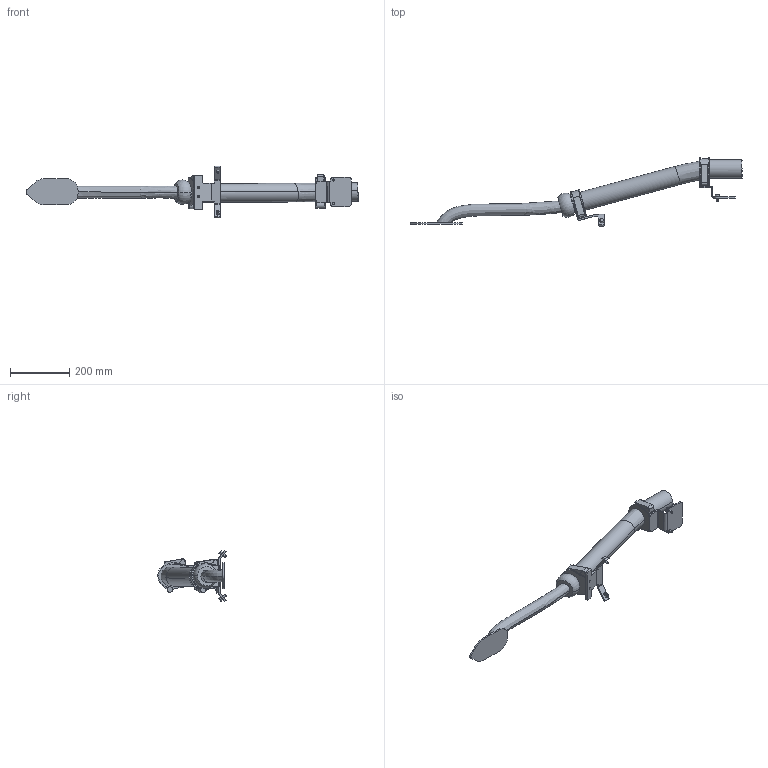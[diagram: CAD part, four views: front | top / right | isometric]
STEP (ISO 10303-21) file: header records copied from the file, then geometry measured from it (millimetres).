
FILE_DESCRIPTION (( 'STEP AP214' ), '1' );
FILE_NAME ('IRB6710-MH3_200kg-295_OC_00_LINK04_CABLE.STEP', '2023-05-10T09:16:48', ( '' ), ( '' ), 'SwSTEP 2.0', 'SolidWorks 2020', '' );
FILE_SCHEMA (( 'AUTOMOTIVE_DESIGN' ));
Length unit declared in the file: millimetre
Products named in the file (1): IRB6710-MH3_200kg-295_OC_00_LINK04_CABLE
Bounding box: 1120.5 x 230.88 x 174.65 mm (x, y, z)
Volume: 3014796.5 mm3; surface area: 298070.9 mm2
Topology: 1 solids, 1 shells, 282 faces, 750 edges, 483 vertices
Faces by surface type: plane 183, cylinder 87, bspline 6, cone 4, torus 2
Entity records: 10749 total; most frequent: CARTESIAN_POINT 3326, ORIENTED_EDGE 1500, DIRECTION 1491, EDGE_CURVE 750, VECTOR 517, LINE 517, AXIS2_PLACEMENT_3D 487, VERTEX_POINT 483
